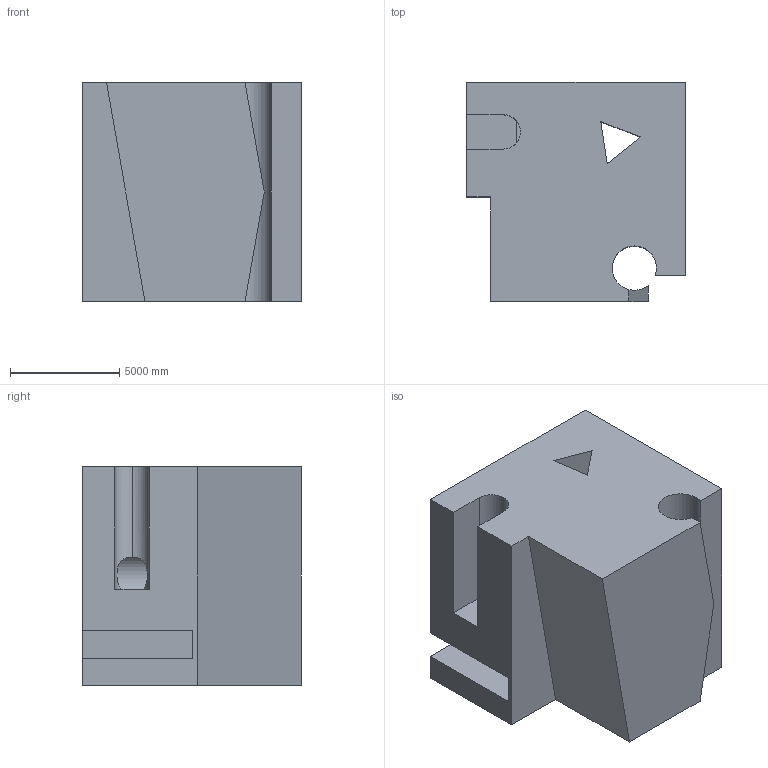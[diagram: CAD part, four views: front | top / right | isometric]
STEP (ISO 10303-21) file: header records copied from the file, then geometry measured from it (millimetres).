
FILE_DESCRIPTION (( 'STEP AP203' ), '1' );
FILE_NAME ('1911.STEP', '2022-08-23T09:23:01', ( 'user' ), ( '' ), 'SwSTEP 2.0', 'SolidWorks 2021', '' );
FILE_SCHEMA (( 'CONFIG_CONTROL_DESIGN' ));
Length unit declared in the file: centimetre
Products named in the file (1): 1911
Bounding box: 10000 x 10000 x 10000 mm (x, y, z)
Volume: 764586680540.7 mm3; surface area: 787530049.3 mm2
Topology: 1 solids, 1 shells, 42 faces, 114 edges, 76 vertices
Faces by surface type: plane 34, cylinder 8
Entity records: 1613 total; most frequent: CARTESIAN_POINT 457, ORIENTED_EDGE 228, DIRECTION 212, EDGE_CURVE 114, VECTOR 94, LINE 94, VERTEX_POINT 76, AXIS2_PLACEMENT_3D 59
